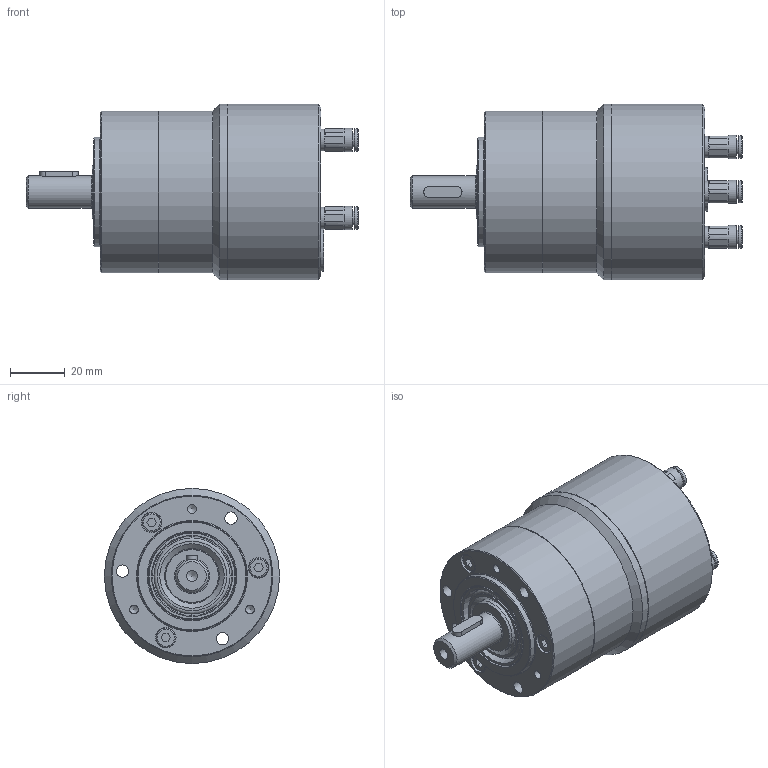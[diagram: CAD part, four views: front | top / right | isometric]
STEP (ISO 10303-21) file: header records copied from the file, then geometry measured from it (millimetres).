
FILE_DESCRIPTION(/* description */ (''),/* implementation_level */ '2;1');
FILE_NAME(/* name */ 'G:\02 CAD Dateien\02 - CAD Schrittmotoren BPS\01 - Standart Produkte\BPS 1620-23\Verkaufsunterlagen\STEP ab JULI 2017\500-1623-370 Schrittmotor BPS-1623.stp',/* time_stamp */ '2017-12-20T11:21:15+01:00',/* author */ ('RSc'),/* organization */ (''),/* preprocessor_version */ 'ST-DEVELOPER v16.1',/* originating_system */ 'Autodesk Inventor 2016',/* authorisation */ '');
FILE_SCHEMA (('AUTOMOTIVE_DESIGN { 1 0 10303 214 3 1 1 }'));
Length unit declared in the file: millimetre
Products named in the file (1): Bauteil33
Bounding box: 121.3 x 64 x 64 mm (x, y, z)
Volume: 237787.1 mm3; surface area: 33243.4 mm2
Topology: 2 solids, 8 shells, 299 faces, 712 edges, 461 vertices
Faces by surface type: plane 155, cylinder 60, cone 42, bspline 31, torus 11
Full cylindrical faces by diameter (mm): 3 x1, 3.242 x3, 4 x6, 4.134 x1, 4.5 x6, 5.2 x3, 7 x3, 7.5 x3, 7.8 x3, 8.1 x3, 8.5 x3, 9 x1, 10.5 x1, 12 x1, 16 x1, 20 x1, 25.4 x1, 32 x1, 40 x1, 59 x2, 64 x2
Entity records: 8567 total; most frequent: CARTESIAN_POINT 1854, DIRECTION 1252, ORIENTED_EDGE 1220, EDGE_CURVE 607, AXIS2_PLACEMENT_3D 478, VERTEX_POINT 436, EDGE_LOOP 427, FACE_OUTER_BOUND 299
